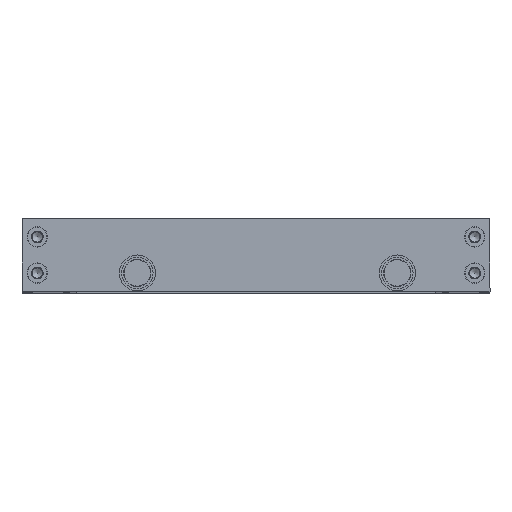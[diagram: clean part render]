
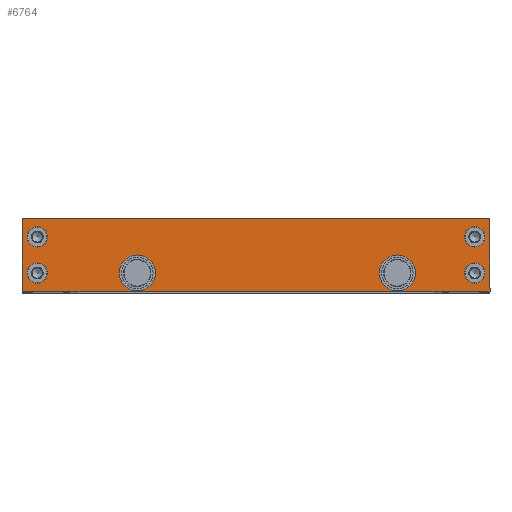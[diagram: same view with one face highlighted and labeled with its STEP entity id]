
A CAD part, top view. The second image highlights one B-rep face of the part: STEP entity #6764.
In plain terms, the highlighted planar face has unit normal (0, 0, 1).
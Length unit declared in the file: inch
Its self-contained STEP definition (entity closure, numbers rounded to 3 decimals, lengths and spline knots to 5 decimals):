
#204=LINE($,#10953,#408);
#205=LINE($,#10955,#409);
#206=LINE($,#10957,#410);
#207=LINE($,#10958,#411);
#408=VECTOR($,#8788,6.48);
#409=VECTOR($,#8789,1.);
#410=VECTOR($,#8790,6.48);
#411=VECTOR($,#8791,1.);
#687=PLANE($,#7425);
#1390=FACE_BOUND($,#2476,.T.);
#1391=FACE_BOUND($,#2477,.T.);
#1392=FACE_BOUND($,#2478,.T.);
#1393=FACE_BOUND($,#2479,.T.);
#1394=FACE_BOUND($,#2480,.T.);
#1395=FACE_BOUND($,#2481,.T.);
#1396=FACE_BOUND($,#2482,.T.);
#2476=EDGE_LOOP($,(#5463));
#2477=EDGE_LOOP($,(#5464));
#2478=EDGE_LOOP($,(#5465));
#2479=EDGE_LOOP($,(#5466));
#2480=EDGE_LOOP($,(#5467));
#2481=EDGE_LOOP($,(#5468));
#2482=EDGE_LOOP($,(#5469,#5470,#5471,#5472));
#3180=CIRCLE($,#7294,0.18625);
#3190=CIRCLE($,#7314,0.18625);
#3236=CIRCLE($,#7405,0.1405);
#3238=CIRCLE($,#7409,0.1405);
#3241=CIRCLE($,#7414,0.1405);
#3244=CIRCLE($,#7419,0.1405);
#3692=VERTEX_POINT($,#10636);
#3704=VERTEX_POINT($,#10705);
#3762=VERTEX_POINT($,#10903);
#3764=VERTEX_POINT($,#10909);
#3767=VERTEX_POINT($,#10917);
#3770=VERTEX_POINT($,#10925);
#3781=VERTEX_POINT($,#10951);
#3782=VERTEX_POINT($,#10952);
#3783=VERTEX_POINT($,#10954);
#3784=VERTEX_POINT($,#10956);
#4366=EDGE_CURVE($,#3692,#3692,#3180,.T.);
#4378=EDGE_CURVE($,#3704,#3704,#3190,.T.);
#4438=EDGE_CURVE($,#3762,#3762,#3236,.T.);
#4440=EDGE_CURVE($,#3764,#3764,#3238,.T.);
#4443=EDGE_CURVE($,#3767,#3767,#3241,.T.);
#4446=EDGE_CURVE($,#3770,#3770,#3244,.T.);
#4457=EDGE_CURVE($,#3781,#3782,#204,.T.);
#4458=EDGE_CURVE($,#3783,#3781,#205,.T.);
#4459=EDGE_CURVE($,#3784,#3783,#206,.T.);
#4460=EDGE_CURVE($,#3782,#3784,#207,.T.);
#5463=ORIENTED_EDGE($,*,*,#4366,.T.);
#5464=ORIENTED_EDGE($,*,*,#4378,.T.);
#5465=ORIENTED_EDGE($,*,*,#4438,.T.);
#5466=ORIENTED_EDGE($,*,*,#4440,.T.);
#5467=ORIENTED_EDGE($,*,*,#4443,.T.);
#5468=ORIENTED_EDGE($,*,*,#4446,.T.);
#5469=ORIENTED_EDGE($,*,*,#4457,.F.);
#5470=ORIENTED_EDGE($,*,*,#4458,.F.);
#5471=ORIENTED_EDGE($,*,*,#4459,.F.);
#5472=ORIENTED_EDGE($,*,*,#4460,.F.);
#6764=ADVANCED_FACE($,(#1390,#1391,#1392,#1393,#1394,#1395,#1396),#687,
 .T.);
#7294=AXIS2_PLACEMENT_3D($,#10637,#8504,#8505);
#7314=AXIS2_PLACEMENT_3D($,#10706,#8544,#8545);
#7405=AXIS2_PLACEMENT_3D($,#10904,#8738,#8739);
#7409=AXIS2_PLACEMENT_3D($,#10910,#8746,#8747);
#7414=AXIS2_PLACEMENT_3D($,#10918,#8756,#8757);
#7419=AXIS2_PLACEMENT_3D($,#10926,#8766,#8767);
#7425=AXIS2_PLACEMENT_3D($,#10950,#8786,#8787);
#8504=DIRECTION('center_axis',(0.,0.,
-1.));
#8505=DIRECTION('ref_axis',(0.,1.,0.));
#8544=DIRECTION('center_axis',(0.,0.,
-1.));
#8545=DIRECTION('ref_axis',(0.,1.,0.));
#8738=DIRECTION('center_axis',(0.,0.,
-1.));
#8739=DIRECTION('ref_axis',(1.,0.,0.));
#8746=DIRECTION('center_axis',(0.,0.,
-1.));
#8747=DIRECTION('ref_axis',(1.,0.,0.));
#8756=DIRECTION('center_axis',(0.,0.,
-1.));
#8757=DIRECTION('ref_axis',(1.,0.,0.));
#8766=DIRECTION('center_axis',(0.,0.,
-1.));
#8767=DIRECTION('ref_axis',(1.,0.,0.));
#8786=DIRECTION('center_axis',(0.,0.,
1.));
#8787=DIRECTION('ref_axis',(1.,0.,0.));
#8788=DIRECTION($,(-1.,0.,0.));
#8789=DIRECTION($,(0.,-1.,0.));
#8790=DIRECTION($,(1.,0.,0.));
#8791=DIRECTION($,(0.,1.,0.));
#10636=CARTESIAN_POINT('',(1.597,0.43625,0.5));
#10637=CARTESIAN_POINT('Origin',(1.597,0.25,0.5));
#10705=CARTESIAN_POINT('',(5.197,0.43625,0.5));
#10706=CARTESIAN_POINT('Origin',(5.197,0.25,0.5));
#10903=CARTESIAN_POINT('',(6.4095,0.75,0.5));
#10904=CARTESIAN_POINT('Origin',(6.269,0.75,0.5));
#10909=CARTESIAN_POINT('',(0.3515,0.75,0.5));
#10910=CARTESIAN_POINT('Origin',(0.211,0.75,0.5));
#10917=CARTESIAN_POINT('',(0.3515,0.25,0.5));
#10918=CARTESIAN_POINT('Origin',(0.211,0.25,0.5));
#10925=CARTESIAN_POINT('',(6.4095,0.25,0.5));
#10926=CARTESIAN_POINT('Origin',(6.269,0.25,0.5));
#10950=CARTESIAN_POINT('Origin',(3.24,0.5,0.5));
#10951=CARTESIAN_POINT('',(6.48,0.,0.5));
#10952=CARTESIAN_POINT('',(0.,0.,
0.5));
#10953=CARTESIAN_POINT($,(0.,0.,
0.5));
#10954=CARTESIAN_POINT('',(6.48,1.,0.5));
#10955=CARTESIAN_POINT($,(6.48,0.,0.5));
#10956=CARTESIAN_POINT('',(0.,1.,0.5));
#10957=CARTESIAN_POINT($,(6.48,1.,0.5));
#10958=CARTESIAN_POINT($,(0.,1.,0.5));
